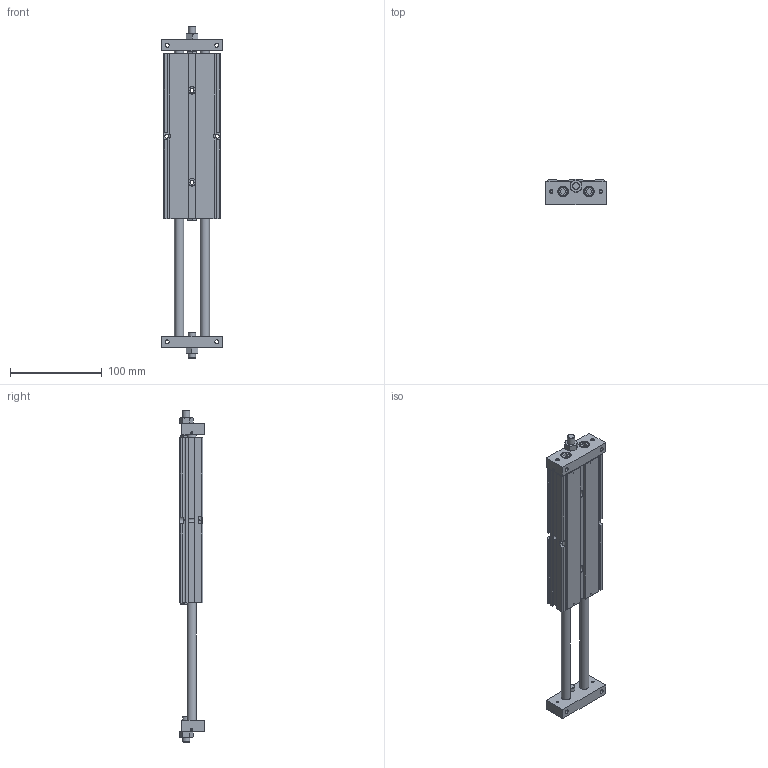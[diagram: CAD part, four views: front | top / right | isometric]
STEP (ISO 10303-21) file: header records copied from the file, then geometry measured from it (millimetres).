
FILE_DESCRIPTION((''),'2;1');
FILE_NAME('I:\3D電子目錄\氣缸\STU\STU\STU20\STU20x125.stp','2007-10-01T10:36:50',('Administrator'),(''),'Autodesk Inventor 11','Autodesk Inventor 11','');
FILE_SCHEMA(('AUTOMOTIVE_DESIGN { 1 0 10303 214 1 1 1 1 }'));
Length unit declared in the file: millimetre
Products named in the file (1): STU20
Bounding box: 66 x 27.51 x 361.5 mm (x, y, z)
Volume: 303364.6 mm3; surface area: 72296 mm2
Topology: 1 solids, 1 shells, 345 faces, 855 edges, 543 vertices
Faces by surface type: plane 166, cone 75, bspline 71, cylinder 29, torus 4
Full cylindrical faces by diameter (mm): 2.459 x2, 8 x6, 10 x6, 11 x4, 22 x2, 23.2 x2
Entity records: 10981 total; most frequent: CARTESIAN_POINT 3646, ORIENTED_EDGE 1470, DIRECTION 1388, EDGE_CURVE 735, EDGE_LOOP 520, VERTEX_POINT 519, AXIS2_PLACEMENT_3D 510, VECTOR 368
